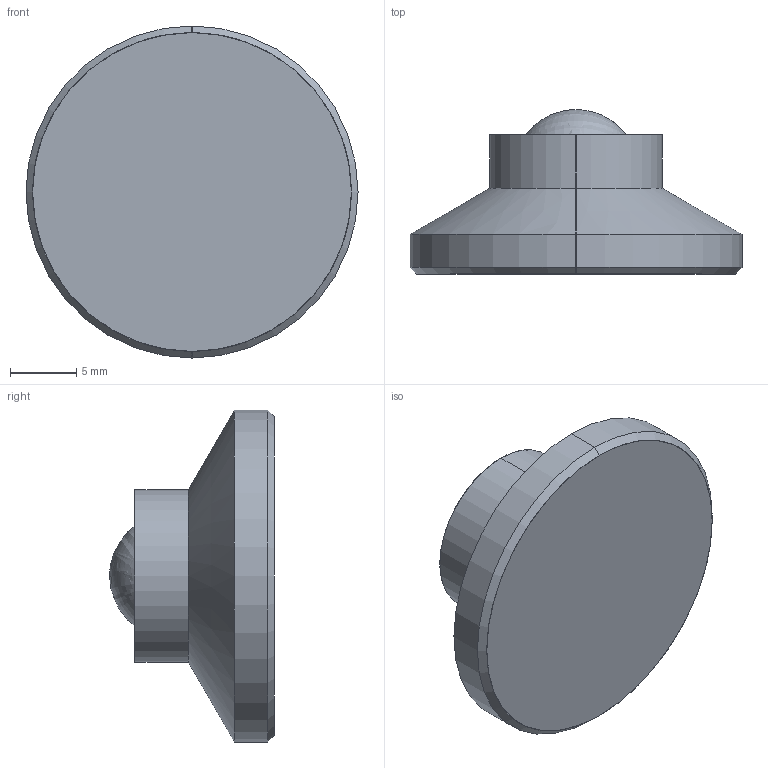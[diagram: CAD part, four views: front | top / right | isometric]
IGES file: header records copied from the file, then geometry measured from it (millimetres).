
Start section: SolidWorks IGES file using analytic representation for surfaces
Global section: file name: C:\Documents and Settings\IanO.IANOHOME\My Documents\Wix and Auto CAD Work\CAD Models\Parametric Models\Wix Models\34530\34530_IGES\34530.W0025.igs; native system: SolidWorks 2009; preprocessor: SolidWorks 2009; author: IanO; date: 110803.110717; units: millimetre
Bounding box: 25 x 12.4 x 25 mm (x, y, z)
Surface area: 1733.9 mm2 (no closed solid volume)
Topology: 0 solids, 0 shells, 14 faces, 180 edges, 176 vertices
Faces by surface type: revolution 12, bspline 2
